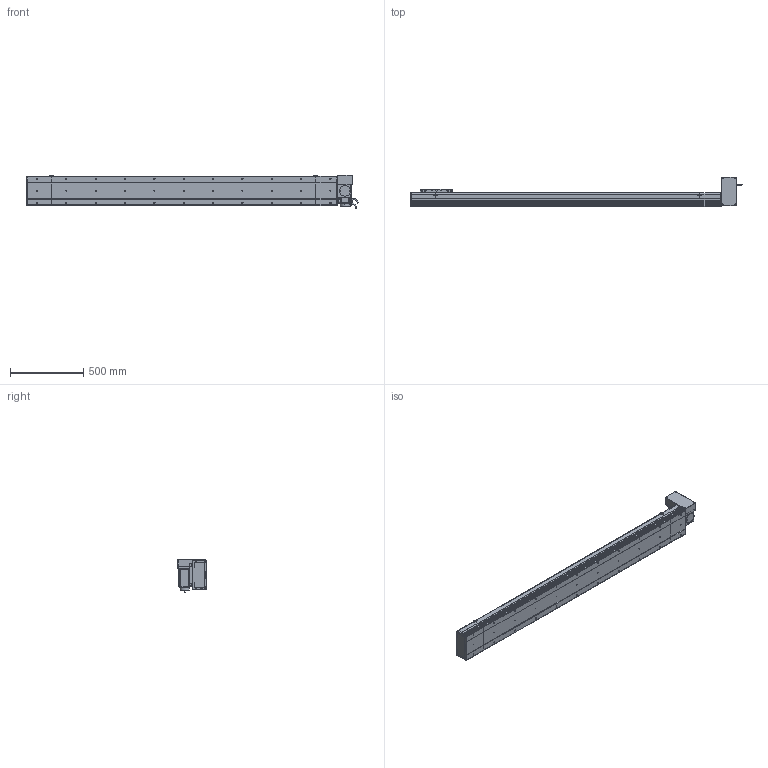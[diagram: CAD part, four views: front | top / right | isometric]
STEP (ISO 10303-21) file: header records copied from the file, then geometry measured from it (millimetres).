
FILE_DESCRIPTION (( 'STEP AP214' ), '1' );
FILE_NAME ('D20 CBH LT S1800.STEP', '2010-06-30T09:46:00', ( 'Conseil Régional Haute-Normandie' ), ( 'Conseil Régional Haute-Normandie' ), 'SwSTEP 2.0', 'SolidWorks 2010', '' );
FILE_SCHEMA (( 'AUTOMOTIVE_DESIGN' ));
Length unit declared in the file: millimetre
Products named in the file (31): Cache Support Moteur LT_Default; Conecteur_Default; Couvercle S1800_Default; Glissiere_Default; Chariot D20_Default; vis M5 L15_Default; ecrou_Default; vis M5 L30_Default; vis M5 L47_Default; Corp D20 S1800_Default; Moteur motionking 90BLDC125A-640; avant 90BLDC125A-640; corps 90BLDC125A-640; codeur 90BLDC125-640; Plaque De Serrage D20 LT_Default; Rondelle Cache D20 LT_Default; Head LT_Default; D20 CBH LT S1800; Corp Tail D20 LT_Default; Corp S1800_Default; Support Chariot D20_Default; Couvercle LT_Default; Plaque de Bout Head D20 LT_Default; Conecteur2_Default; Plaque de Bout Tail D20_Default; Tail D20_Default; Couvercle_Default; Corp Tail D20_Default; Plaque De Serrage D20_Default; Support moteur LT_Default
Assembly tree (66 placements, depth 4):
  D20 CBH LT S1800
    Head LT_Default
      vis M5 L47_Default  x4
      vis M5 L15_Default  x12
      ecrou_Default  x4
      vis M5 L30_Default  x4
      Cache Support Moteur LT_Default
      Plaque de Bout Head D20 LT_Default
      Corp Tail D20 LT_Default
      Rondelle Cache D20 LT_Default  x3
      Moteur motionking 90BLDC125A-640
        Conecteur2_Default
        codeur 90BLDC125-640
        corps 90BLDC125A-640
        Conecteur_Default
        avant 90BLDC125A-640
      Couvercle LT_Default
      Support moteur LT_Default
      Plaque De Serrage D20 LT_Default
    Corp D20 S1800_Default
      Corp S1800_Default
      Couvercle S1800_Default
    Tail D20_Default
      Plaque de Bout Tail D20_Default
      vis M5 L15_Default  x6
      Corp Tail D20_Default
      Plaque De Serrage D20_Default
      Couvercle_Default
    Chariot D20_Default
      vis M5 L15_Default  x8
      Chariot D20_Default
      Support Chariot D20_Default
      Glissiere_Default
Bounding box: 2263.45 x 202.5 x 229.7 mm (x, y, z)
Volume: 15584010 mm3; surface area: 3075147 mm2
Topology: 103 solids, 103 shells, 3774 faces, 9458 edges, 6148 vertices
Faces by surface type: plane 2095, bspline 806, cylinder 710, torus 91, cone 68, sphere 4
Entity records: 160630 total; most frequent: CARTESIAN_POINT 83224, ORIENTED_EDGE 15384, DIRECTION 11616, EDGE_CURVE 7692, VERTEX_POINT 5092, VECTOR 4940, LINE 4940, AXIS2_PLACEMENT_3D 3338
